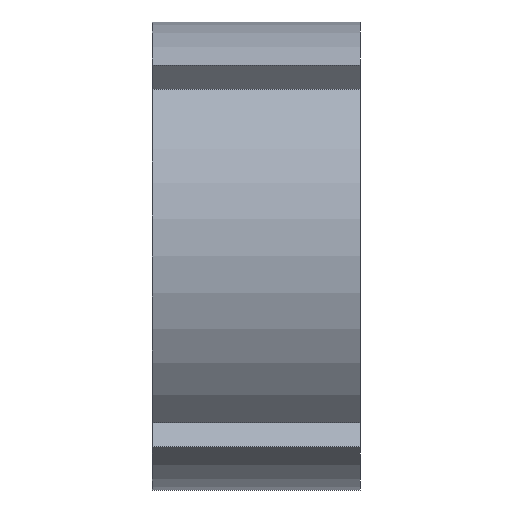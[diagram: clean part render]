
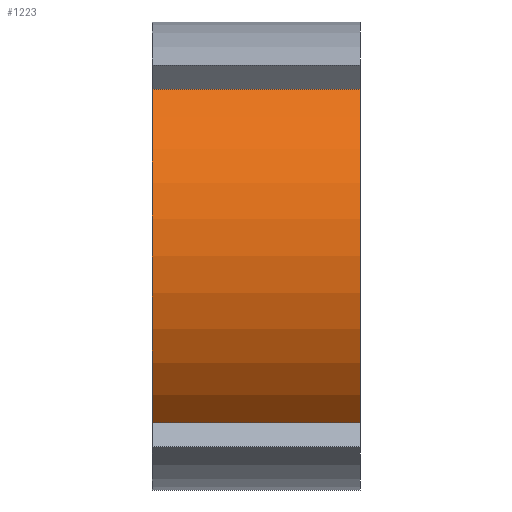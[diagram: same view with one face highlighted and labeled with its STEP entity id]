
A CAD part, front view. The second image highlights one B-rep face of the part: STEP entity #1223.
In plain terms, the highlighted cylindrical face has radius 9 mm (diameter 18 mm), a partial arc.
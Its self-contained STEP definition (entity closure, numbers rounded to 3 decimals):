
#45 = PLANE('',#46);
#46 = AXIS2_PLACEMENT_3D('',#47,#48,#49);
#47 = CARTESIAN_POINT('',(388.,0.,5.2));
#48 = DIRECTION('',(1.,0.,0.));
#49 = DIRECTION('',(-0.,0.,1.));
#100 = PLANE('',#101);
#101 = AXIS2_PLACEMENT_3D('',#102,#103,#104);
#102 = CARTESIAN_POINT('',(396.,0.,5.2));
#103 = DIRECTION('',(1.,0.,0.));
#104 = DIRECTION('',(-0.,0.,1.));
#1103 = PLANE('',#1104);
#1104 = AXIS2_PLACEMENT_3D('',#1105,#1106,#1107);
#1105 = CARTESIAN_POINT('',(387.,-3.319,2.372));
#1106 = DIRECTION('',(0.,0.766,-0.643));
#1107 = DIRECTION('',(1.,0.,0.));
#1158 = VERTEX_POINT('',#1159);
#1159 = CARTESIAN_POINT('',(388.,-6.322,-1.206));
#1180 = VERTEX_POINT('',#1181);
#1181 = CARTESIAN_POINT('',(396.,-6.322,-1.206));
#1200 = EDGE_CURVE('',#1158,#1180,#1201,.T.);
#1201 = SURFACE_CURVE('',#1202,(#1206,#1212),.PCURVE_S1.);
#1202 = LINE('',#1203,#1204);
#1203 = CARTESIAN_POINT('',(388.,-6.322,-1.206));
#1204 = VECTOR('',#1205,1.);
#1205 = DIRECTION('',(1.,0.,0.));
#1206 = PCURVE('',#1103,#1207);
#1207 = DEFINITIONAL_REPRESENTATION('',(#1208),#1211);
#1208 = B_SPLINE_CURVE_WITH_KNOTS('',1,(#1209,#1210),.UNSPECIFIED.,.F.,
  .F.,(2,2),(0.,8.),.PIECEWISE_BEZIER_KNOTS.);
#1209 = CARTESIAN_POINT('',(1.,4.671));
#1210 = CARTESIAN_POINT('',(9.,4.671));
#1211 = ( GEOMETRIC_REPRESENTATION_CONTEXT(2) 
PARAMETRIC_REPRESENTATION_CONTEXT() REPRESENTATION_CONTEXT('2D SPACE',''
  ) );
#1212 = PCURVE('',#1213,#1218);
#1213 = CYLINDRICAL_SURFACE('',#1214,9.);
#1214 = AXIS2_PLACEMENT_3D('',#1215,#1216,#1217);
#1215 = CARTESIAN_POINT('',(388.,0.,5.2));
#1216 = DIRECTION('',(1.,0.,0.));
#1217 = DIRECTION('',(-0.,0.,1.));
#1218 = DEFINITIONAL_REPRESENTATION('',(#1219),#1222);
#1219 = B_SPLINE_CURVE_WITH_KNOTS('',1,(#1220,#1221),.UNSPECIFIED.,.F.,
  .F.,(2,2),(0.,8.),.PIECEWISE_BEZIER_KNOTS.);
#1220 = CARTESIAN_POINT('',(2.363,0.));
#1221 = CARTESIAN_POINT('',(2.363,8.));
#1222 = ( GEOMETRIC_REPRESENTATION_CONTEXT(2) 
PARAMETRIC_REPRESENTATION_CONTEXT() REPRESENTATION_CONTEXT('2D SPACE',''
  ) );
#1223 = ADVANCED_FACE('',(#1224),#1213,.T.);
#1224 = FACE_BOUND('',#1225,.T.);
#1225 = EDGE_LOOP('',(#1226,#1250,#1276,#1298));
#1226 = ORIENTED_EDGE('',*,*,#1227,.F.);
#1227 = EDGE_CURVE('',#1228,#1180,#1230,.T.);
#1228 = VERTEX_POINT('',#1229);
#1229 = CARTESIAN_POINT('',(396.,-6.322,11.606));
#1230 = SURFACE_CURVE('',#1231,(#1236,#1243),.PCURVE_S1.);
#1231 = CIRCLE('',#1232,9.);
#1232 = AXIS2_PLACEMENT_3D('',#1233,#1234,#1235);
#1233 = CARTESIAN_POINT('',(396.,0.,5.2));
#1234 = DIRECTION('',(1.,0.,0.));
#1235 = DIRECTION('',(-0.,0.,1.));
#1236 = PCURVE('',#1213,#1237);
#1237 = DEFINITIONAL_REPRESENTATION('',(#1238),#1242);
#1238 = LINE('',#1239,#1240);
#1239 = CARTESIAN_POINT('',(0.,8.));
#1240 = VECTOR('',#1241,1.);
#1241 = DIRECTION('',(1.,0.));
#1242 = ( GEOMETRIC_REPRESENTATION_CONTEXT(2) 
PARAMETRIC_REPRESENTATION_CONTEXT() REPRESENTATION_CONTEXT('2D SPACE',''
  ) );
#1243 = PCURVE('',#100,#1244);
#1244 = DEFINITIONAL_REPRESENTATION('',(#1245),#1249);
#1245 = CIRCLE('',#1246,9.);
#1246 = AXIS2_PLACEMENT_2D('',#1247,#1248);
#1247 = CARTESIAN_POINT('',(0.,0.));
#1248 = DIRECTION('',(1.,0.));
#1249 = ( GEOMETRIC_REPRESENTATION_CONTEXT(2) 
PARAMETRIC_REPRESENTATION_CONTEXT() REPRESENTATION_CONTEXT('2D SPACE',''
  ) );
#1250 = ORIENTED_EDGE('',*,*,#1251,.F.);
#1251 = EDGE_CURVE('',#1252,#1228,#1254,.T.);
#1252 = VERTEX_POINT('',#1253);
#1253 = CARTESIAN_POINT('',(388.,-6.322,11.606));
#1254 = SURFACE_CURVE('',#1255,(#1259,#1265),.PCURVE_S1.);
#1255 = LINE('',#1256,#1257);
#1256 = CARTESIAN_POINT('',(388.,-6.322,11.606));
#1257 = VECTOR('',#1258,1.);
#1258 = DIRECTION('',(1.,0.,0.));
#1259 = PCURVE('',#1213,#1260);
#1260 = DEFINITIONAL_REPRESENTATION('',(#1261),#1264);
#1261 = B_SPLINE_CURVE_WITH_KNOTS('',1,(#1262,#1263),.UNSPECIFIED.,.F.,
  .F.,(2,2),(0.,8.),.PIECEWISE_BEZIER_KNOTS.);
#1262 = CARTESIAN_POINT('',(0.779,0.));
#1263 = CARTESIAN_POINT('',(0.779,8.));
#1264 = ( GEOMETRIC_REPRESENTATION_CONTEXT(2) 
PARAMETRIC_REPRESENTATION_CONTEXT() REPRESENTATION_CONTEXT('2D SPACE',''
  ) );
#1265 = PCURVE('',#1266,#1271);
#1266 = PLANE('',#1267);
#1267 = AXIS2_PLACEMENT_3D('',#1268,#1269,#1270);
#1268 = CARTESIAN_POINT('',(387.,-3.319,8.028));
#1269 = DIRECTION('',(0.,-0.766,-0.643));
#1270 = DIRECTION('',(1.,0.,0.));
#1271 = DEFINITIONAL_REPRESENTATION('',(#1272),#1275);
#1272 = B_SPLINE_CURVE_WITH_KNOTS('',1,(#1273,#1274),.UNSPECIFIED.,.F.,
  .F.,(2,2),(0.,8.),.PIECEWISE_BEZIER_KNOTS.);
#1273 = CARTESIAN_POINT('',(1.,4.671));
#1274 = CARTESIAN_POINT('',(9.,4.671));
#1275 = ( GEOMETRIC_REPRESENTATION_CONTEXT(2) 
PARAMETRIC_REPRESENTATION_CONTEXT() REPRESENTATION_CONTEXT('2D SPACE',''
  ) );
#1276 = ORIENTED_EDGE('',*,*,#1277,.T.);
#1277 = EDGE_CURVE('',#1252,#1158,#1278,.T.);
#1278 = SURFACE_CURVE('',#1279,(#1284,#1291),.PCURVE_S1.);
#1279 = CIRCLE('',#1280,9.);
#1280 = AXIS2_PLACEMENT_3D('',#1281,#1282,#1283);
#1281 = CARTESIAN_POINT('',(388.,0.,5.2));
#1282 = DIRECTION('',(1.,0.,0.));
#1283 = DIRECTION('',(-0.,0.,1.));
#1284 = PCURVE('',#1213,#1285);
#1285 = DEFINITIONAL_REPRESENTATION('',(#1286),#1290);
#1286 = LINE('',#1287,#1288);
#1287 = CARTESIAN_POINT('',(0.,0.));
#1288 = VECTOR('',#1289,1.);
#1289 = DIRECTION('',(1.,0.));
#1290 = ( GEOMETRIC_REPRESENTATION_CONTEXT(2) 
PARAMETRIC_REPRESENTATION_CONTEXT() REPRESENTATION_CONTEXT('2D SPACE',''
  ) );
#1291 = PCURVE('',#45,#1292);
#1292 = DEFINITIONAL_REPRESENTATION('',(#1293),#1297);
#1293 = CIRCLE('',#1294,9.);
#1294 = AXIS2_PLACEMENT_2D('',#1295,#1296);
#1295 = CARTESIAN_POINT('',(0.,0.));
#1296 = DIRECTION('',(1.,0.));
#1297 = ( GEOMETRIC_REPRESENTATION_CONTEXT(2) 
PARAMETRIC_REPRESENTATION_CONTEXT() REPRESENTATION_CONTEXT('2D SPACE',''
  ) );
#1298 = ORIENTED_EDGE('',*,*,#1200,.T.);
